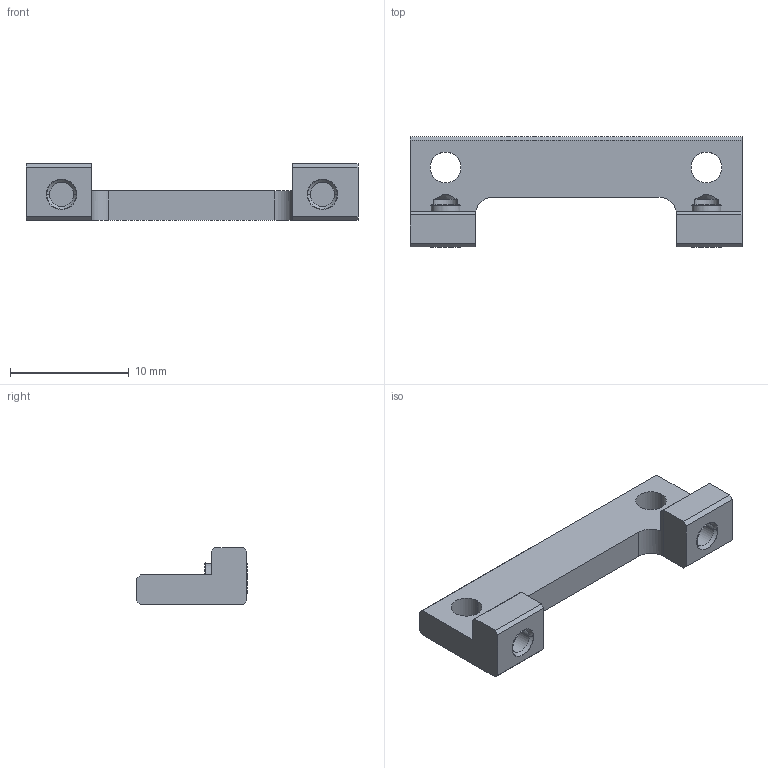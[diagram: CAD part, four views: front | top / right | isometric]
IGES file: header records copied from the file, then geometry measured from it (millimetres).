
Start section:  PTC IGES file: fr05_x101.igs
Global section: file name: fr05_x101.igs; native system: Pro/ENGINEER by Parametric Technology Corporation; preprocessor: 2009060; author: JANG WOOK; organization: Unknown; date: 20100202.170246; units: millimetre
Bounding box: 28 x 9.34 x 4.8 mm (x, y, z)
Surface area: 972.6 mm2 (no closed solid volume)
Topology: 0 solids, 0 shells, 56 faces, 424 edges, 484 vertices
Faces by surface type: revolution 30, bspline 26
